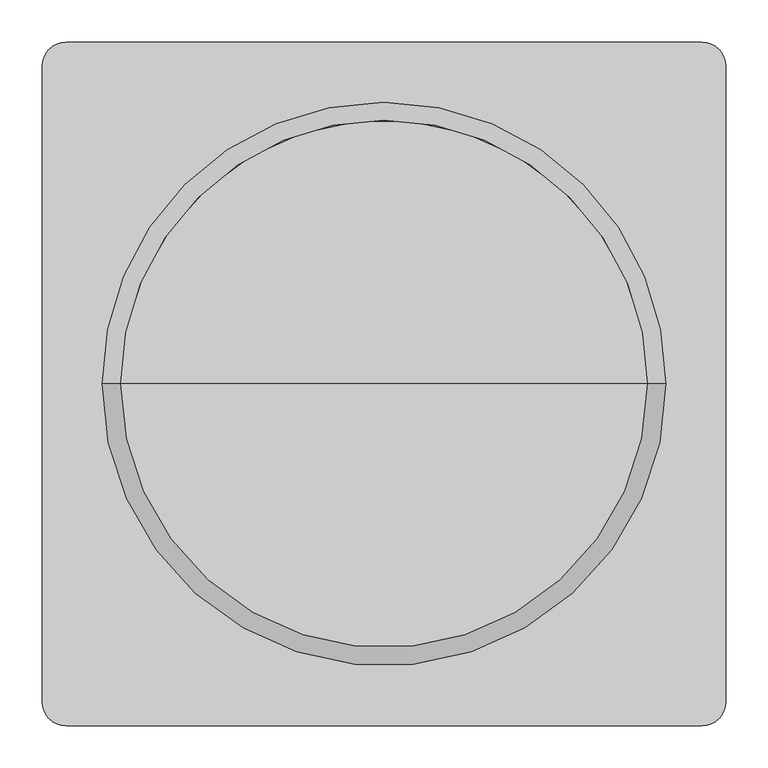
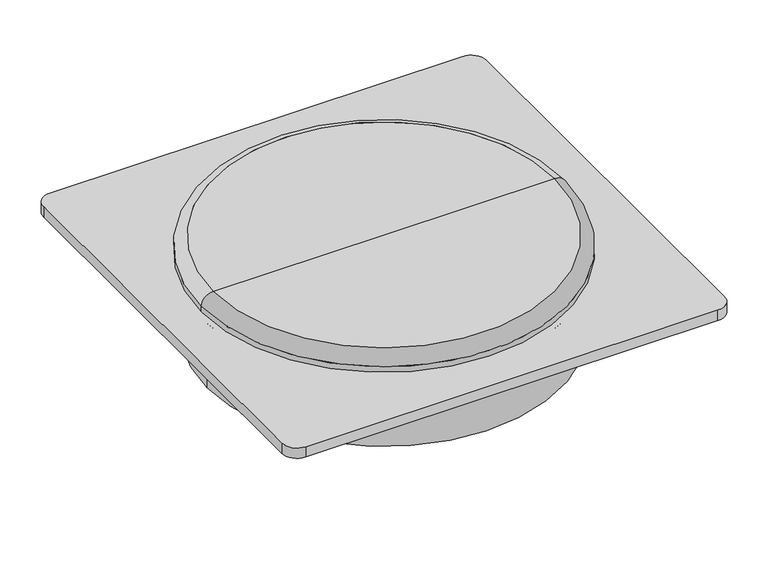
"""IFC4 building model written with IfcOpenShell, lengths in millimetres: unitary equipment geometry, VE-Wentylator-ParaForma-Harmann-WAF-Wywiewny : 630/6/12200T."""

import ifcopenshell
import ifcopenshell.guid

model = None  # the IFC model being written
_history = None  # IfcOwnerHistory: only IFC2X3 demands one
_inside = {}  # id of a spatial element -> (the spatial element, [elements in it])
_under = {}  # id of a project, library or spatial element -> (it, [spatial elements below it])
_declared = {}  # id of a project -> (the project, [libraries it declares])
_typed = {}  # id of a type object -> (the type object, [elements of that type])
_made_of = {}  # id of a material, layer set ... -> (it, [elements and type objects made of it])


def new_model(schema):
    """Start an empty IFC model of exactly this schema.

    Asked for "IFC4X3", IfcOpenShell would pick the latest addendum, in which some entities
    have other attributes; the version numbers below select the first issue.
    IFC2X3 requires an IfcOwnerHistory on every rooted entity: one is made here for all.
    """
    global model, _history
    if schema == "IFC4X3":
        model = ifcopenshell.file(schema_version=(4, 3, 0, 0))
    else:
        model = ifcopenshell.file(schema=schema)
    _inside.clear()
    _under.clear()
    _declared.clear()
    _typed.clear()
    _made_of.clear()
    _history = None
    if model.schema == "IFC2X3":
        org = make("IfcOrganization", Name="unknown")
        user = make(
            "IfcPersonAndOrganization",
            ThePerson=make("IfcPerson", FamilyName="unknown"),
            TheOrganization=org,
        )
        app = make(
            "IfcApplication",
            ApplicationDeveloper=org,
            Version="unknown",
            ApplicationFullName="unknown",
            ApplicationIdentifier="unknown",
        )
        _history = make(
            "IfcOwnerHistory",
            OwningUser=user,
            OwningApplication=app,
            ChangeAction="ADDED",
            CreationDate=0,
        )
    return model


def make(cls, **values):
    """One entity of the class cls with the attributes given. An attribute that is None is left unset."""
    return model.create_entity(
        cls, **{name: value for name, value in values.items() if value is not None}
    )


def rooted(cls, **values):
    """An entity with a GlobalId (a new one), such as an element, a storey or a relation."""
    return make(cls, GlobalId=ifcopenshell.guid.new(), OwnerHistory=_history, **values)


def si_unit(unit_type, name, prefix=None):
    """IfcSIUnit, for example si_unit("LENGTHUNIT", "METRE", prefix="MILLI")."""
    return make("IfcSIUnit", UnitType=unit_type, Prefix=prefix, Name=name)


def assignment(units):
    """IfcUnitAssignment: the units of a project."""
    return None if units is None else make("IfcUnitAssignment", Units=units)


def point(xyz):
    """IfcCartesianPoint."""
    return None if xyz is None else make("IfcCartesianPoint", Coordinates=xyz)


def direction(xyz):
    """IfcDirection."""
    return None if xyz is None else make("IfcDirection", DirectionRatios=xyz)


def frame(location, z_axis=None, x_axis=None):
    """IfcAxis2Placement3D, a coordinate frame: its origin and axes. An axis left out is left unset."""
    return make(
        "IfcAxis2Placement3D",
        Location=point(location),
        Axis=direction(z_axis),
        RefDirection=direction(x_axis),
    )


def frame_2d(location, x_axis=None):
    """IfcAxis2Placement2D, a coordinate frame in the plane: its origin and x axis."""
    return make(
        "IfcAxis2Placement2D", Location=point(location), RefDirection=direction(x_axis)
    )


def origin():
    """The frame at (0, 0, 0) with its axes left unset."""
    return frame((0.0, 0.0, 0.0))


def origin_with_axes():
    """The frame at (0, 0, 0) with the z axis (0, 0, 1) and the x axis (1, 0, 0) written out."""
    return frame((0.0, 0.0, 0.0), z_axis=(0.0, 0.0, 1.0), x_axis=(1.0, 0.0, 0.0))


def origin_2d():
    """The frame at (0, 0) in the plane with its x axis left unset."""
    return frame_2d((0.0, 0.0))


def place(relative_to, where):
    """IfcLocalPlacement: puts the frame where relative to a parent placement (None: the world)."""
    return make(
        "IfcLocalPlacement", PlacementRelTo=relative_to, RelativePlacement=where
    )


def context(
    kind, dimensions, precision=None, world=None, true_north=None, identifier=None
):
    """IfcGeometricRepresentationContext, for example the 3D "Model" context."""
    return make(
        "IfcGeometricRepresentationContext",
        ContextIdentifier=identifier,
        ContextType=kind,
        CoordinateSpaceDimension=dimensions,
        Precision=precision,
        WorldCoordinateSystem=world,
        TrueNorth=true_north,
    )


def project(units=None, contexts=None):
    """IfcProject with its units and contexts."""
    return rooted(
        "IfcProject",
        Name="project",
        RepresentationContexts=contexts,
        UnitsInContext=assignment(units),
    )


def spatial(cls, under=None, at=None, **own):
    """A site, building, storey or space (cls), placed at a placement, below another one or the project."""
    s = rooted(cls, ObjectPlacement=at, **own)
    if under is not None:
        _under.setdefault(under.id(), (under, []))[1].append(s)
    return s


def polyline(points):
    """IfcPolyline through the points."""
    return make("IfcPolyline", Points=[point(p) for p in points])


def circle_curve(where, radius):
    """IfcCircle in the frame where."""
    return make("IfcCircle", Position=where, Radius=radius)


def ellipse_curve(where, semi_axis1, semi_axis2):
    """IfcEllipse in the frame where."""
    return make(
        "IfcEllipse", Position=where, SemiAxis1=semi_axis1, SemiAxis2=semi_axis2
    )


def trimmed(basis, trim1, trim2, sense, master):
    """IfcTrimmedCurve: the piece of a basis curve between two trims."""
    return make(
        "IfcTrimmedCurve",
        BasisCurve=basis,
        Trim1=trim1,
        Trim2=trim2,
        SenseAgreement=sense,
        MasterRepresentation=master,
    )


def segment(curve, same_sense, transition):
    """IfcCompositeCurveSegment."""
    return make(
        "IfcCompositeCurveSegment",
        Transition=transition,
        SameSense=same_sense,
        ParentCurve=curve,
    )


def composite_curve(segments, self_intersect=None):
    """IfcCompositeCurve: segments joined end to end."""
    return make("IfcCompositeCurve", Segments=segments, SelfIntersect=self_intersect)


def outline(outer, holes=None, kind="AREA"):
    """IfcArbitraryClosedProfileDef: a profile drawn as a closed curve; with holes, ...WithVoids."""
    if holes is None:
        return make("IfcArbitraryClosedProfileDef", ProfileType=kind, OuterCurve=outer)
    return make(
        "IfcArbitraryProfileDefWithVoids",
        ProfileType=kind,
        OuterCurve=outer,
        InnerCurves=holes,
    )


def extrude(swept, where, along, depth):
    """IfcExtrudedAreaSolid: the profile swept, set in the frame where, extruded along a direction by depth."""
    return make(
        "IfcExtrudedAreaSolid",
        SweptArea=swept,
        Position=where,
        ExtrudedDirection=direction(along),
        Depth=depth,
    )


def shape(context_of_items, identifier, shape_type, items):
    """IfcShapeRepresentation: the items that make up one representation, for example the "Body"."""
    return make(
        "IfcShapeRepresentation",
        ContextOfItems=context_of_items,
        RepresentationIdentifier=identifier,
        RepresentationType=shape_type,
        Items=items,
    )


def source(mapping_origin, context_of_items, identifier, shape_type, items):
    """IfcRepresentationMap: a shape defined once, which mapped items show again and again."""
    return make(
        "IfcRepresentationMap",
        MappingOrigin=mapping_origin,
        MappedRepresentation=shape(context_of_items, identifier, shape_type, items),
    )


def transform(
    local_origin,
    x_axis=None,
    y_axis=None,
    z_axis=None,
    scale=None,
    scale2=None,
    scale3=None,
    uniform=True,
):
    """IfcCartesianTransformationOperator3D, or its non-uniform kind. x_axis, y_axis, z_axis: its Axis1, 2, 3."""
    if uniform:
        return make(
            "IfcCartesianTransformationOperator3D",
            Axis1=direction(x_axis),
            Axis2=direction(y_axis),
            LocalOrigin=point(local_origin),
            Scale=scale,
            Axis3=direction(z_axis),
        )
    return make(
        "IfcCartesianTransformationOperator3DnonUniform",
        Axis1=direction(x_axis),
        Axis2=direction(y_axis),
        LocalOrigin=point(local_origin),
        Scale=scale,
        Axis3=direction(z_axis),
        Scale2=scale2,
        Scale3=scale3,
    )


def mapped(mapping_source, mapping_target):
    """IfcMappedItem: shows the shape of a source again, moved by a transform."""
    return make(
        "IfcMappedItem", MappingSource=mapping_source, MappingTarget=mapping_target
    )


def made_of(thing, what):
    """Note that an element or type object is made of a material, layer set ...; save() writes the relation."""
    if what is not None:
        _made_of.setdefault(what.id(), (what, []))[1].append(thing)
    return thing


def element(
    cls,
    number,
    at=None,
    inside=None,
    cuts=None,
    type_object=None,
    material=None,
    context=None,
    identifier="Body",
    shape_type=None,
    held_by="IfcProductDefinitionShape",
    body=None,
    shapes=None,
    **own,
):
    """One element of the class cls, such as IfcWall. Its Tag is "e" and its number.

    at: its placement. inside: the storey or other place that contains it. cuts: it is an
    opening in that element (IfcRelVoidsElement). A single representation is given by context,
    identifier, shape_type and body (its items); several are given by shapes. held_by: the class
    of the entity that holds the representations. save() writes the other relations.
    """
    e = rooted(cls, Tag="e%d" % number, ObjectPlacement=at, **own)
    if body is not None:
        shapes = [shape(context, identifier, shape_type, body)]
    if shapes is not None:
        e.Representation = make(held_by, Representations=shapes)
    if inside is not None:
        _inside.setdefault(inside.id(), (inside, []))[1].append(e)
    if cuts is not None:
        rooted(
            "IfcRelVoidsElement", RelatingBuildingElement=cuts, RelatedOpeningElement=e
        )
    if type_object is not None:
        _typed.setdefault(type_object.id(), (type_object, []))[1].append(e)
    return made_of(e, material)


def aggregate(whole, parts):
    """IfcRelAggregates: a whole, such as a stair, and the parts it consists of."""
    return rooted("IfcRelAggregates", RelatingObject=whole, RelatedObjects=parts)


def save(model, path):
    """Write the relations noted so far, then the file.

    IfcRelAggregates (storeys below a building ...), IfcRelContainedInSpatialStructure (elements
    in a storey), IfcRelDefinesByType, IfcRelAssociatesMaterial and IfcRelDeclares: one each for
    every whole, place, type object, material and project.
    """
    for whole, parts in _under.values():
        aggregate(whole, parts)
    for where, things in _inside.values():
        rooted(
            "IfcRelContainedInSpatialStructure",
            RelatedElements=things,
            RelatingStructure=where,
        )
    for kind, things in _typed.values():
        rooted("IfcRelDefinesByType", RelatedObjects=things, RelatingType=kind)
    for what, things in _made_of.values():
        rooted("IfcRelAssociatesMaterial", RelatedObjects=things, RelatingMaterial=what)
    for by, libraries in _declared.values():
        rooted("IfcRelDeclares", RelatingContext=by, RelatedDefinitions=libraries)
    model.write(path)


def plane_surface(at):
    """IfcPlane: the flat surface through the origin of the frame at, square to its z axis."""
    return make("IfcPlane", Position=at)


def cylinder_surface(at, radius):
    """IfcCylindricalSurface: all points at the distance radius from the z axis of the frame at."""
    return make("IfcCylindricalSurface", Position=at, Radius=radius)


def revolved_surface(curve, axis_point, axis_direction):
    """IfcSurfaceOfRevolution: the curve turned about the line through axis_point along axis_direction."""
    return make(
        "IfcSurfaceOfRevolution",
        SweptCurve=make("IfcArbitraryOpenProfileDef", ProfileType="CURVE", Curve=curve),
        AxisPosition=make("IfcAxis1Placement", Location=point(axis_point), Axis=direction(axis_direction)),
    )


def advanced_brep(points, edges, surfaces, faces):
    """IfcAdvancedBrep: a solid bounded by faces that lie on surfaces and meet in shared edges.

    An edge is (start, end): straight between two places in points (the first is 0);
    or (start, end, curve); or (start, end, curve, False) where it runs against its curve.
    A face is (place in surfaces, loops), or (place, loops, False) where it looks against
    its surface's normal. A loop lists edges by number (the first is 1), with a minus sign
    where the edge is run from its end to its start. The first loop is the outer one.
    """
    corners = [point(p) for p in points]
    vertices = [make("IfcVertexPoint", VertexGeometry=c) for c in corners]
    made = []
    for start, end, *more in edges:
        made.append(
            make(
                "IfcEdgeCurve",
                EdgeStart=vertices[start],
                EdgeEnd=vertices[end],
                EdgeGeometry=more[0] if more else make("IfcPolyline", Points=[corners[start], corners[end]]),
                SameSense=more[1] if len(more) > 1 else True,
            )
        )
    hull = []
    for where, loops, *sense in faces:
        bounds = []
        for j, loop in enumerate(loops):
            ring = [make("IfcOrientedEdge", EdgeElement=made[abs(k) - 1], Orientation=k > 0) for k in loop]
            bounds.append(
                make(
                    "IfcFaceOuterBound" if j == 0 else "IfcFaceBound",
                    Bound=make("IfcEdgeLoop", EdgeList=ring),
                    Orientation=True,
                )
            )
        hull.append(make("IfcAdvancedFace", Bounds=bounds, FaceSurface=surfaces[where], SameSense=sense[0] if sense else True))
    return make("IfcAdvancedBrep", Outer=make("IfcClosedShell", CfsFaces=hull))


def unitary_equipment_daafa31a(model_context):
    return source(origin(), model_context, "Body", "SolidModel", [
        advanced_brep(
        [(332.0, 0.0, 20.0), (-332.0, 0.0, 20.0), (0.0, 0.0, 20.0), (332.0, 0.0, 30.6666667), (-332.0, 0.0, 30.6666667), (310.6666667, 0.0, 52.0), (-310.6666667, 0.0, 52.0), (0.0, 0.0, 52.0)],
        [
            (0, 1, circle_curve(frame((0.0, 0.0, 20.0), z_axis=(0.0, 0.0, -1.0), x_axis=(-1.0000000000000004, 0.0, 0.0)), 332.0)),
            (1, 2),
            (2, 0),
            (1, 0, circle_curve(frame((0.0, 0.0, 20.0), z_axis=(0.0, 0.0, -1.0), x_axis=(-1.0000000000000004, 0.0, 0.0)), 332.0)),
            (3, 4, circle_curve(frame((0.0, 0.0, 30.6666667), z_axis=(0.0, 0.0, -1.0), x_axis=(-1.0000000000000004, 0.0, 0.0)), 332.0)),
            (4, 1),
            (0, 3),
            (4, 3, circle_curve(frame((0.0, 0.0, 30.6666667), z_axis=(0.0, 0.0, -1.0), x_axis=(-1.0000000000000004, 0.0, 0.0)), 332.0)),
            (5, 6, circle_curve(frame((0.0, 0.0, 52.0), z_axis=(0.0, 0.0, -1.0), x_axis=(-1.0000000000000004, 0.0, 0.0)), 310.6666667)),
            (6, 4, circle_curve(frame((-310.6666667, 0.0, 30.6666667), z_axis=(0.0, -1.0000000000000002, 0.0), x_axis=(0.0, 0.0, -1.0000000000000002)), 21.3333333)),
            (3, 5, circle_curve(frame((310.6666667, 0.0, 30.6666667), z_axis=(0.0, -1.0000000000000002, 0.0), x_axis=(0.0, 0.0, -1.0000000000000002)), 21.3333333)),
            (6, 5, circle_curve(frame((0.0, 0.0, 52.0), z_axis=(0.0, 0.0, -1.0), x_axis=(-1.0000000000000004, 0.0, 0.0)), 310.6666667)),
            (7, 6),
            (5, 7),
        ],
        [
            plane_surface(frame((0.0, 0.0, 20.0), z_axis=(0.0, 0.0, -1.0), x_axis=(-1.0, 0.0, 0.0))),
            cylinder_surface(frame((0.0, 0.0, 52.0), z_axis=(0.0, 0.0, 1.0000000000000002), x_axis=(-1.0000000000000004, 0.0, 0.0)), 332.0),
            revolved_surface(trimmed(ellipse_curve(frame((-310.6666667, 0.0, 30.6666667), z_axis=(0.0, 1.0000000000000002, 0.0), x_axis=(0.0, 0.0, -1.0000000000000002)), 21.3333333, 21.3333333), [point((-332.0, 0.0, 30.6666667))], [point((-310.6666667, 0.0, 52.0))], True, "CARTESIAN"), (0.0, 0.0, 52.0), (0.0, 0.0, 1.0000000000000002)),
            plane_surface(frame((0.0, 0.0, 52.0), z_axis=(0.0, 0.0, 1.0), x_axis=(-1.0, 0.0, 0.0))),
        ],
        [
            (0, [[1, 2, 3]]),
            (0, [[4, -3, -2]]),
            (1, [[5, 6, -1, 7]]),
            (1, [[8, -7, -4, -6]]),
            (2, [[9, 10, -5, 11]]),
            (2, [[12, -11, -8, -10]]),
            (3, [[13, -9, 14]]),
            (3, [[-14, -12, -13]]),
        ],
    ),
        extrude(outline(composite_curve([segment(trimmed(circle_curve(origin_2d(), 99.6), [point((99.6, 0.0))], [point((-99.6, 0.0))], False, "CARTESIAN"), True, "CONTINUOUS"), segment(trimmed(circle_curve(origin_2d(), 99.6), [point((-99.6, 0.0))], [point((99.6, 0.0))], False, "CARTESIAN"), True, "CONTINUOUS")], self_intersect=False)), frame((0.0, 0.0, -173.0), z_axis=(0.0, 0.0, 1.0), x_axis=(1.0, 0.0, 0.0)), (0.0, 0.0, 1.0), 43.0),
        advanced_brep(
        [(0.0, 0.0, 0.0), (-332.0, 0.0, 0.0), (332.0, 0.0, 0.0), (321.5, 0.0, -130.0), (-321.5, 0.0, -130.0), (0.0, 0.0, -130.0), (321.5, 0.0, -10.5), (-321.5, 0.0, -10.5)],
        [
            (0, 1),
            (1, 2, circle_curve(frame((0.0, 0.0, 0.0), z_axis=(0.0, 0.0, 1.0), x_axis=(-1.0000000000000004, 0.0, 0.0)), 332.0)),
            (2, 0),
            (2, 1, circle_curve(frame((0.0, 0.0, 0.0), z_axis=(0.0, 0.0, 1.0), x_axis=(-1.0000000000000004, 0.0, 0.0)), 332.0)),
            (3, 4, circle_curve(frame((0.0, 0.0, -130.0), z_axis=(0.0, 0.0, -1.0), x_axis=(-1.0000000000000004, 0.0, 0.0)), 321.5)),
            (4, 5),
            (5, 3),
            (4, 3, circle_curve(frame((0.0, 0.0, -130.0), z_axis=(0.0, 0.0, -1.0), x_axis=(-1.0000000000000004, 0.0, 0.0)), 321.5)),
            (6, 7, circle_curve(frame((0.0, 0.0, -10.5), z_axis=(0.0, 0.0, -1.0), x_axis=(-1.0000000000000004, 0.0, 0.0)), 321.5)),
            (7, 4),
            (3, 6),
            (7, 6, circle_curve(frame((0.0, 0.0, -10.5), z_axis=(0.0, 0.0, -1.0), x_axis=(-1.0000000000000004, 0.0, 0.0)), 321.5)),
            (1, 7, circle_curve(frame((-332.0, 0.0, -10.5), z_axis=(0.0, 1.0000000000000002, 0.0), x_axis=(0.0, 0.0, -1.0000000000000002)), 10.5)),
            (6, 2, circle_curve(frame((332.0, 0.0, -10.5), z_axis=(0.0, 1.0000000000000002, 0.0), x_axis=(0.0, 0.0, -1.0000000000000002)), 10.5)),
        ],
        [
            plane_surface(frame((0.0, 0.0, 0.0), z_axis=(0.0, 0.0, 1.0), x_axis=(-1.0, 0.0, 0.0))),
            plane_surface(frame((0.0, 0.0, -130.0), z_axis=(0.0, 0.0, -1.0), x_axis=(-1.0, 0.0, 0.0))),
            cylinder_surface(frame((0.0, 0.0, 0.0), z_axis=(0.0, 0.0, 1.0000000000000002), x_axis=(-1.0000000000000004, 0.0, 0.0)), 321.5),
            revolved_surface(trimmed(ellipse_curve(frame((-332.0, 0.0, -10.5), z_axis=(0.0, -1.0000000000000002, 0.0), x_axis=(0.0, 0.0, -1.0000000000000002)), 10.5, 10.5), [point((-321.5, 0.0, -10.5))], [point((-332.0, 0.0, 0.0))], True, "CARTESIAN"), (0.0, 0.0, 0.0), (0.0, 0.0, 1.0000000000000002)),
        ],
        [
            (0, [[1, 2, 3]]),
            (0, [[-3, 4, -1]]),
            (1, [[5, 6, 7]]),
            (1, [[8, -7, -6]]),
            (2, [[9, 10, -5, 11]]),
            (2, [[12, -11, -8, -10]]),
            (3, [[-2, 13, -9, 14]]),
            (3, [[-4, -14, -12, -13]]),
        ],
    ),
        extrude(outline(composite_curve([segment(polyline([(375.0, -402.5), (-375.0, -402.5)]), True, "CONTINUOUS"), segment(trimmed(circle_curve(frame_2d((-375.0, -375.0)), 27.5), [point((-375.0, -402.5))], [point((-402.5, -375.0))], False, "CARTESIAN"), True, "CONTINUOUS"), segment(polyline([(-402.5, -375.0), (-402.5, 375.0)]), True, "CONTINUOUS"), segment(trimmed(circle_curve(frame_2d((-375.0, 375.0)), 27.5), [point((-402.5, 375.0))], [point((-375.0, 402.5))], False, "CARTESIAN"), True, "CONTINUOUS"), segment(polyline([(-375.0, 402.5), (375.0, 402.5)]), True, "CONTINUOUS"), segment(trimmed(circle_curve(frame_2d((375.0, 375.0)), 27.5), [point((375.0, 402.5))], [point((402.5, 375.0))], False, "CARTESIAN"), True, "CONTINUOUS"), segment(polyline([(402.5, 375.0), (402.5, -375.0)]), True, "CONTINUOUS"), segment(trimmed(circle_curve(frame_2d((375.0, -375.0)), 27.5), [point((402.5, -375.0))], [point((375.0, -402.5))], False, "CARTESIAN"), True, "CONTINUOUS")], self_intersect=False)), origin_with_axes(), (0.0, 0.0, 1.0), 20.0),
    ])


if __name__ == "__main__":
    model = new_model("IFC4")
    model_context = context("Model", 3, world=origin())
    ifc_project = project(units=[si_unit("LENGTHUNIT", "METRE", prefix="MILLI")], contexts=[model_context])
    site = spatial("IfcSite", under=ifc_project)
    building = spatial("IfcBuilding", under=site)
    placement = place(None, origin())
    unitary_equipment_shape = unitary_equipment_daafa31a(model_context)
    element("IfcUnitaryEquipment", 1, ObjectType="VE-Wentylator-ParaForma-Harmann-WAF-Wywiewny : 630/6/12200T", at=placement, inside=building, context=model_context, shape_type="MappedRepresentation", body=[
        mapped(unitary_equipment_shape, transform((0.0, 0.0, 0.0), x_axis=(1.0, 0.0, 0.0), y_axis=(0.0, 1.0, 0.0), z_axis=(0.0, 0.0, 1.0))),
    ])
    save(model, "model.ifc")
